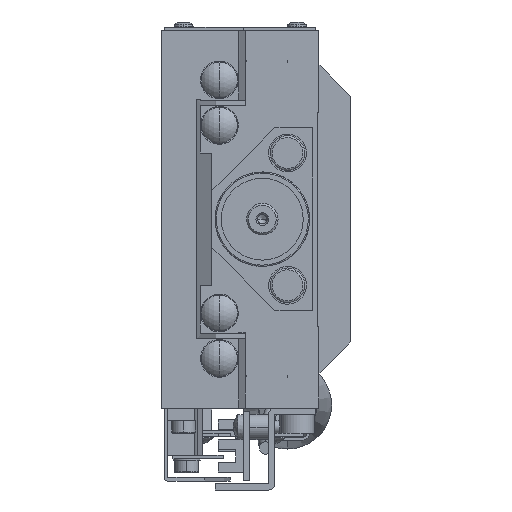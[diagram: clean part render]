
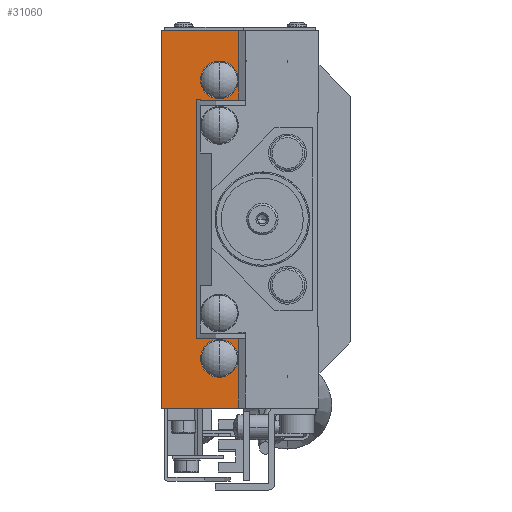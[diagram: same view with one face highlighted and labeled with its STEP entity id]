
A CAD part, left-side view. The second image highlights one B-rep face of the part: STEP entity #31060.
In plain terms, the highlighted planar face has unit normal (-1, 0, 0).
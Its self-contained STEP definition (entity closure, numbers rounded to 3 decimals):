
#343 = CIRCLE ( 'NONE', #2231, 3. ) ;
#348 = DIRECTION ( 'NONE',  ( -1., 0., 0. ) ) ;
#411 = CARTESIAN_POINT ( 'NONE',  ( -30., 12.74, -18.9 ) ) ;
#865 = LINE ( 'NONE', #12044, #6448 ) ;
#1031 = VERTEX_POINT ( 'NONE', #25415 ) ;
#1072 = CARTESIAN_POINT ( 'NONE',  ( -30., 0., 19. ) ) ;
#1181 = DIRECTION ( 'NONE',  ( 0., -1., 0. ) ) ;
#1370 = VERTEX_POINT ( 'NONE', #19399 ) ;
#1828 = LINE ( 'NONE', #13924, #14905 ) ;
#2011 = LINE ( 'NONE', #1072, #25373 ) ;
#2231 = AXIS2_PLACEMENT_3D ( 'NONE', #29839, #17231, #19765 ) ;
#2617 = PLANE ( 'NONE',  #8458 ) ;
#2823 = AXIS2_PLACEMENT_3D ( 'NONE', #10010, #348, #18023 ) ;
#2831 = CARTESIAN_POINT ( 'NONE',  ( -30., 12.74, 26.5 ) ) ;
#2923 = CARTESIAN_POINT ( 'NONE',  ( -30., 12.74, 26.5 ) ) ;
#3316 = CARTESIAN_POINT ( 'NONE',  ( -30., 0., -30. ) ) ;
#3716 = CARTESIAN_POINT ( 'NONE',  ( -30., 15.81, 25.1 ) ) ;
#3887 = CARTESIAN_POINT ( 'NONE',  ( -30., 0., 30. ) ) ;
#3901 = EDGE_CURVE ( 'NONE', #10627, #10173, #343, .T. ) ;
#3951 = EDGE_CURVE ( 'NONE', #1370, #18665, #30272, .T. ) ;
#4001 = CARTESIAN_POINT ( 'NONE',  ( -30., 18.888, 26.5 ) ) ;
#4341 = VERTEX_POINT ( 'NONE', #24679 ) ;
#4356 = ORIENTED_EDGE ( 'NONE', *, *, #7292, .F. ) ;
#4425 = EDGE_CURVE ( 'NONE', #12177, #29335, #25435, .T. ) ;
#4681 = CARTESIAN_POINT ( 'NONE',  ( -30., 18.888, -19. ) ) ;
#6034 = CARTESIAN_POINT ( 'NONE',  ( -30., 12.74, -18.9 ) ) ;
#6321 = CARTESIAN_POINT ( 'NONE',  ( -30., 12.74, 18.9 ) ) ;
#6448 = VECTOR ( 'NONE', #24268, 1000. ) ;
#6537 = CIRCLE ( 'NONE', #2823, 3. ) ;
#6608 = ORIENTED_EDGE ( 'NONE', *, *, #3901, .F. ) ;
#7033 = DIRECTION ( 'NONE',  ( -1., 0., 0. ) ) ;
#7054 = DIRECTION ( 'NONE',  ( 0., -1., 0. ) ) ;
#7292 = EDGE_CURVE ( 'NONE', #12225, #1031, #9914, .T. ) ;
#7647 = DIRECTION ( 'NONE',  ( 0., 0., 1. ) ) ;
#8037 = DIRECTION ( 'NONE',  ( 0., 0., -1. ) ) ;
#8406 = VECTOR ( 'NONE', #21452, 1000. ) ;
#8458 = AXIS2_PLACEMENT_3D ( 'NONE', #2831, #18088, #28056 ) ;
#8668 = VECTOR ( 'NONE', #28367, 1000. ) ;
#9010 = LINE ( 'NONE', #12723, #29174 ) ;
#9210 = CARTESIAN_POINT ( 'NONE',  ( -30., 18.888, 19. ) ) ;
#9467 = ORIENTED_EDGE ( 'NONE', *, *, #19742, .F. ) ;
#9497 = ORIENTED_EDGE ( 'NONE', *, *, #17710, .F. ) ;
#9655 = FACE_BOUND ( 'NONE', #32521, .T. ) ;
#9672 = AXIS2_PLACEMENT_3D ( 'NONE', #13294, #13088, #25777 ) ;
#9914 = LINE ( 'NONE', #3316, #29272 ) ;
#10010 = CARTESIAN_POINT ( 'NONE',  ( -30., 15.81, -22.1 ) ) ;
#10173 = VERTEX_POINT ( 'NONE', #22120 ) ;
#10201 = ORIENTED_EDGE ( 'NONE', *, *, #4425, .F. ) ;
#10313 = ORIENTED_EDGE ( 'NONE', *, *, #12814, .F. ) ;
#10627 = VERTEX_POINT ( 'NONE', #3716 ) ;
#11151 = CARTESIAN_POINT ( 'NONE',  ( -30., 18.888, -18.9 ) ) ;
#11199 = EDGE_CURVE ( 'NONE', #10173, #10627, #30013, .T. ) ;
#11587 = LINE ( 'NONE', #4001, #8406 ) ;
#11882 = ORIENTED_EDGE ( 'NONE', *, *, #24422, .T. ) ;
#11890 = EDGE_CURVE ( 'NONE', #17674, #28384, #9010, .T. ) ;
#12044 = CARTESIAN_POINT ( 'NONE',  ( -30., 0., -19. ) ) ;
#12177 = VERTEX_POINT ( 'NONE', #24061 ) ;
#12225 = VERTEX_POINT ( 'NONE', #26607 ) ;
#12269 = ORIENTED_EDGE ( 'NONE', *, *, #17661, .T. ) ;
#12707 = CARTESIAN_POINT ( 'NONE',  ( -30., 19.401, 19. ) ) ;
#12723 = CARTESIAN_POINT ( 'NONE',  ( -30., 19.401, -56.265 ) ) ;
#12814 = EDGE_CURVE ( 'NONE', #14612, #17796, #19227, .T. ) ;
#13055 = CARTESIAN_POINT ( 'NONE',  ( -30., 25., 30. ) ) ;
#13082 = ORIENTED_EDGE ( 'NONE', *, *, #31965, .T. ) ;
#13088 = DIRECTION ( 'NONE',  ( -1., 0., 0. ) ) ;
#13294 = CARTESIAN_POINT ( 'NONE',  ( -30., 15.81, -22.1 ) ) ;
#13859 = LINE ( 'NONE', #22183, #17050 ) ;
#13866 = AXIS2_PLACEMENT_3D ( 'NONE', #20051, #7033, #24581 ) ;
#13924 = CARTESIAN_POINT ( 'NONE',  ( -30., 12.74, -56.265 ) ) ;
#14612 = VERTEX_POINT ( 'NONE', #4681 ) ;
#14905 = VECTOR ( 'NONE', #18994, 1000. ) ;
#15569 = FACE_BOUND ( 'NONE', #19713, .T. ) ;
#17050 = VECTOR ( 'NONE', #7054, 1000. ) ;
#17231 = DIRECTION ( 'NONE',  ( -1., 0., 0. ) ) ;
#17661 = EDGE_CURVE ( 'NONE', #21662, #17796, #30772, .T. ) ;
#17674 = VERTEX_POINT ( 'NONE', #30682 ) ;
#17710 = EDGE_CURVE ( 'NONE', #1031, #32223, #19717, .T. ) ;
#17718 = EDGE_LOOP ( 'NONE', ( #10313, #23934, #32726, #20543, #30237, #26768, #17971, #13082, #9497, #4356, #11882, #12269 ) ) ;
#17796 = VERTEX_POINT ( 'NONE', #11151 ) ;
#17971 = ORIENTED_EDGE ( 'NONE', *, *, #3951, .F. ) ;
#18023 = DIRECTION ( 'NONE',  ( 0., 0., 1. ) ) ;
#18088 = DIRECTION ( 'NONE',  ( 1., 0., 0. ) ) ;
#18165 = DIRECTION ( 'NONE',  ( 0., 0., 1. ) ) ;
#18665 = VERTEX_POINT ( 'NONE', #6321 ) ;
#18850 = VECTOR ( 'NONE', #18165, 1000. ) ;
#18913 = VECTOR ( 'NONE', #26050, 1000. ) ;
#18994 = DIRECTION ( 'NONE',  ( 0., 0., 1. ) ) ;
#19227 = LINE ( 'NONE', #26012, #18850 ) ;
#19399 = CARTESIAN_POINT ( 'NONE',  ( -30., 12.74, 30. ) ) ;
#19713 = EDGE_LOOP ( 'NONE', ( #24836, #6608 ) ) ;
#19717 = LINE ( 'NONE', #23374, #18913 ) ;
#19742 = EDGE_CURVE ( 'NONE', #29335, #12177, #6537, .T. ) ;
#19765 = DIRECTION ( 'NONE',  ( 0., 0., 1. ) ) ;
#20051 = CARTESIAN_POINT ( 'NONE',  ( -30., 15.81, 22.1 ) ) ;
#20543 = ORIENTED_EDGE ( 'NONE', *, *, #22733, .T. ) ;
#21452 = DIRECTION ( 'NONE',  ( 0., 0., -1. ) ) ;
#21556 = DIRECTION ( 'NONE',  ( 0., 1., 0. ) ) ;
#21662 = VERTEX_POINT ( 'NONE', #6034 ) ;
#22120 = CARTESIAN_POINT ( 'NONE',  ( -30., 15.81, 19.1 ) ) ;
#22183 = CARTESIAN_POINT ( 'NONE',  ( -30., 12.74, 18.9 ) ) ;
#22733 = EDGE_CURVE ( 'NONE', #28384, #26872, #2011, .T. ) ;
#23374 = CARTESIAN_POINT ( 'NONE',  ( -30., 25., 30. ) ) ;
#23934 = ORIENTED_EDGE ( 'NONE', *, *, #27492, .T. ) ;
#24061 = CARTESIAN_POINT ( 'NONE',  ( -30., 15.81, -19.1 ) ) ;
#24206 = LINE ( 'NONE', #3887, #28179 ) ;
#24268 = DIRECTION ( 'NONE',  ( 0., 1., 0. ) ) ;
#24422 = EDGE_CURVE ( 'NONE', #12225, #21662, #1828, .T. ) ;
#24581 = DIRECTION ( 'NONE',  ( 0., 0., 1. ) ) ;
#24679 = CARTESIAN_POINT ( 'NONE',  ( -30., 18.888, 18.9 ) ) ;
#24836 = ORIENTED_EDGE ( 'NONE', *, *, #11199, .F. ) ;
#25333 = CARTESIAN_POINT ( 'NONE',  ( -30., 15.81, -25.1 ) ) ;
#25373 = VECTOR ( 'NONE', #1181, 1000. ) ;
#25415 = CARTESIAN_POINT ( 'NONE',  ( -30., 25., -30. ) ) ;
#25435 = CIRCLE ( 'NONE', #9672, 3. ) ;
#25777 = DIRECTION ( 'NONE',  ( 0., 0., 1. ) ) ;
#26012 = CARTESIAN_POINT ( 'NONE',  ( -30., 18.888, -26.5 ) ) ;
#26050 = DIRECTION ( 'NONE',  ( 0., 0., 1. ) ) ;
#26607 = CARTESIAN_POINT ( 'NONE',  ( -30., 12.74, -30. ) ) ;
#26768 = ORIENTED_EDGE ( 'NONE', *, *, #28599, .T. ) ;
#26872 = VERTEX_POINT ( 'NONE', #9210 ) ;
#27492 = EDGE_CURVE ( 'NONE', #14612, #17674, #865, .T. ) ;
#28056 = DIRECTION ( 'NONE',  ( 0., 1., 0. ) ) ;
#28179 = VECTOR ( 'NONE', #21556, 1000. ) ;
#28284 = VECTOR ( 'NONE', #8037, 1000. ) ;
#28367 = DIRECTION ( 'NONE',  ( 0., 1., 0. ) ) ;
#28384 = VERTEX_POINT ( 'NONE', #12707 ) ;
#28599 = EDGE_CURVE ( 'NONE', #4341, #18665, #13859, .T. ) ;
#28640 = DIRECTION ( 'NONE',  ( 0., 1., 0. ) ) ;
#29174 = VECTOR ( 'NONE', #7647, 1000. ) ;
#29272 = VECTOR ( 'NONE', #28640, 1000. ) ;
#29335 = VERTEX_POINT ( 'NONE', #25333 ) ;
#29438 = FACE_OUTER_BOUND ( 'NONE', #17718, .T. ) ;
#29839 = CARTESIAN_POINT ( 'NONE',  ( -30., 15.81, 22.1 ) ) ;
#30013 = CIRCLE ( 'NONE', #13866, 3. ) ;
#30237 = ORIENTED_EDGE ( 'NONE', *, *, #31874, .T. ) ;
#30272 = LINE ( 'NONE', #2923, #28284 ) ;
#30682 = CARTESIAN_POINT ( 'NONE',  ( -30., 19.401, -19. ) ) ;
#30772 = LINE ( 'NONE', #411, #8668 ) ;
#31060 = ADVANCED_FACE ( 'NONE', ( #29438, #15569, #9655 ), #2617, .F. ) ;
#31874 = EDGE_CURVE ( 'NONE', #26872, #4341, #11587, .T. ) ;
#31965 = EDGE_CURVE ( 'NONE', #1370, #32223, #24206, .T. ) ;
#32223 = VERTEX_POINT ( 'NONE', #13055 ) ;
#32521 = EDGE_LOOP ( 'NONE', ( #9467, #10201 ) ) ;
#32726 = ORIENTED_EDGE ( 'NONE', *, *, #11890, .T. ) ;
